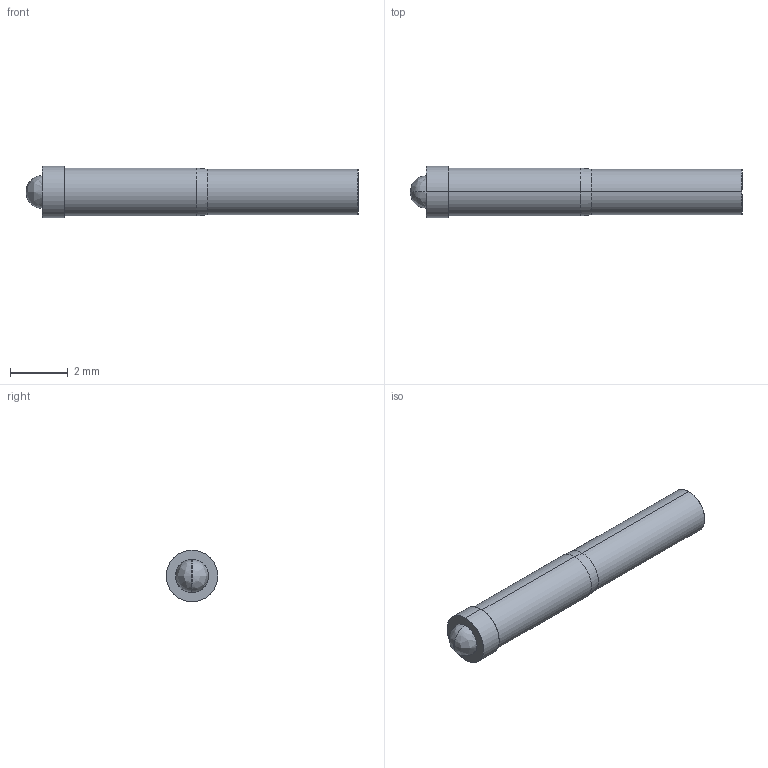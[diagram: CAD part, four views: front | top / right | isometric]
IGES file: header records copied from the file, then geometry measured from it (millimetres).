
Start section: SolidWorks IGES file using analytic representation for surfaces
Global section: file name: O:\PYLON\IGES FILES\E-S\E-S-R REC'D.IGS; native system: SolidWorks 2015; preprocessor: SolidWorks 2015; author: kgolden; date: 171024.082507; units: inch
Bounding box: 11.48 x 1.78 x 1.78 mm (x, y, z)
Surface area: 70.8 mm2 (no closed solid volume)
Topology: 0 solids, 0 shells, 17 faces, 200 edges, 200 vertices
Faces by surface type: revolution 10, bspline 7
